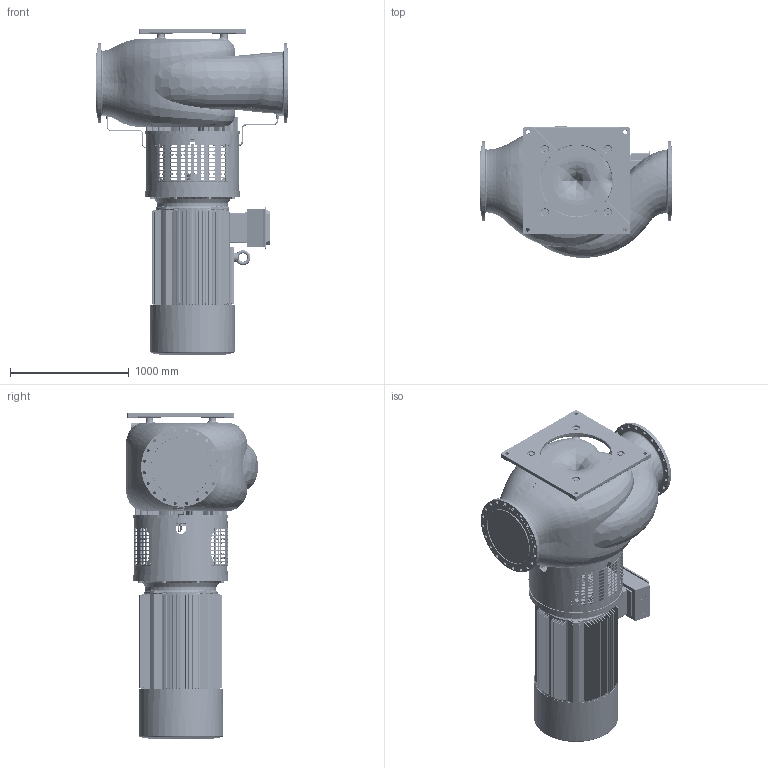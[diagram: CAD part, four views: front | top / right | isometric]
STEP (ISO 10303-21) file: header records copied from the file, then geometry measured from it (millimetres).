
FILE_DESCRIPTION((''),'2;1');
FILE_NAME('DSL500-515_A-G_ASM_ASM','2019-04-28T',('brhe'),(''),'PRO/ENGINEER BY PARAMETRIC TECHNOLOGY CORPORATION, 2017170','PRO/ENGINEER BY PARAMETRIC TECHNOLOGY CORPORATION, 2017170','');
FILE_SCHEMA(('CONFIG_CONTROL_DESIGN'));
Length unit declared in the file: millimetre
Products named in the file (27): 523110_1; 523130_1; 709618_1; 714910_1; 655407_ASM_1_ASM; 523174_1; 114569_1; 112999_1; 523194_1; 719725_1; 113001_1; 714915_1; 708438_1; 704186_1; 506961_1; 655406_ASM_1_ASM; 523730_1; 703090_1; 704191_1; 113174_1; 706318_1; 655408_ASM_1_ASM; BREP_WITH_VOIDS_404089; MANIFOLD_SOLID_BREP_415906; 844720_1_ASM; DSL500-515_A-G_ASM_1_ASM; DSL500-515_A-G_ASM_ASM
Assembly tree (60 placements, depth 5):
  DSL500-515_A-G_ASM_ASM
    DSL500-515_A-G_ASM_1_ASM
      655406_ASM_1_ASM
        655407_ASM_1_ASM
          523110_1
          523130_1
          709618_1  x4
          714910_1  x4
        523174_1
        114569_1  x2
        112999_1
        523194_1
        719725_1  x2
        113001_1
        714915_1  x2
        708438_1  x2
        704186_1  x2
        506961_1  x2
      655408_ASM_1_ASM
        523730_1
        703090_1  x8
        704191_1  x8
        113174_1  x2
        706318_1  x8
      844720_1_ASM
        BREP_WITH_VOIDS_404089
        MANIFOLD_SOLID_BREP_415906
Bounding box: 1608.14 x 1107.99 x 2745 mm (x, y, z)
Volume: 1217502341.7 mm3; surface area: 32876528.1 mm2
Topology: 55 solids, 150 shells, 10331 faces, 29598 edges, 19538 vertices
Faces by surface type: plane 4575, bspline 3306, cylinder 1696, cone 511, torus 186, revolution 36, extrusion 11, sphere 10
Entity records: 388629 total; most frequent: CARTESIAN_POINT 218430, ORIENTED_EDGE 39324, DIRECTION 26989, EDGE_CURVE 19898, VERTEX_POINT 13159, VECTOR 9511, LINE 9500, EDGE_LOOP 9039
